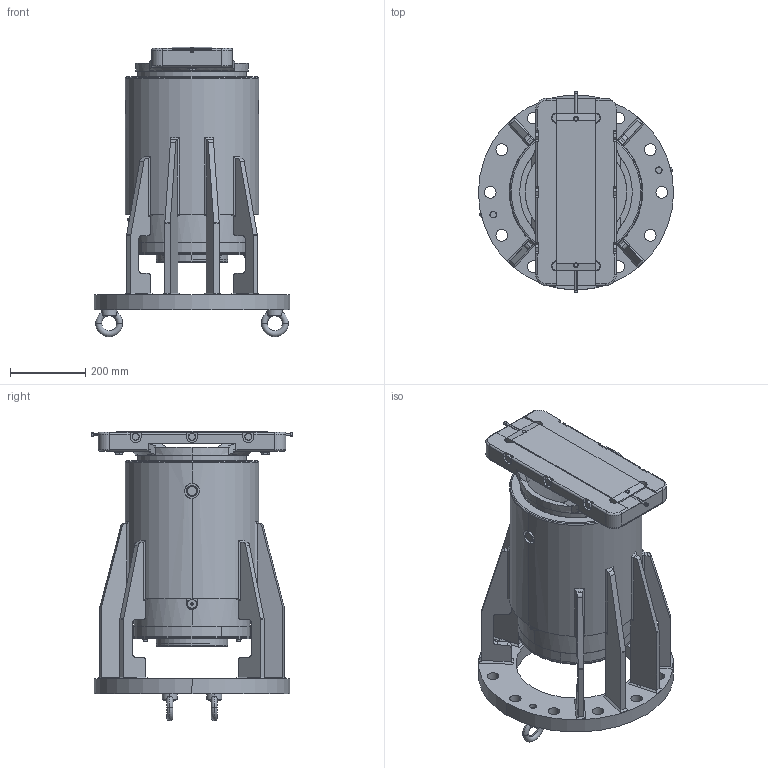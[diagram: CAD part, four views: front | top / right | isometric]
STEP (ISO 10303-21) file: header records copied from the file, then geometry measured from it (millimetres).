
FILE_DESCRIPTION((''),'2;1');
FILE_NAME('HR_185_FHM-530_ASM','2021-12-09T',('BOLS'),(''),'CREO PARAMETRIC BY PTC INC, 2018360','CREO PARAMETRIC BY PTC INC, 2018360','');
FILE_SCHEMA(('CONFIG_CONTROL_DESIGN'));
Length unit declared in the file: millimetre
Products named in the file (70): 11271-017_-_VIS_DE_PURGE-1-SO_1; 12746-030_VIS_GARNITURE_AP2-628; 12746-005_CYLINDRE-1-SOLID1_1_1; VIS_CHC__M6-7-SOLID1_1_1; VIS_CHC__M6-5-SOLID1_1_1; RONDELLES_NORM_TYPE_Z-11-SOLID1; RONDELLES_NORM_TYPE_Z-8-SOLID1_; 12746-030_VIS_GARNITURE_AP-3879; 12746-030_VIS_GARNITURE_AP-4282; VIS_H_M12-2-SOLID1_1_1; 12746-008_COUVERCLE-2-SOLID1_1_; RONDELLES_NORM_TYPE_Z-7-SOLID1_; 12746-015_REPRISE_VIS_ANTI-5722; VIS_CHC__M6-6-SOLID1_1_1; 12746-001_CORPS_AP230K-1-S-6723; 12746-001_CORPS_AP230K-1-S-7753; JOINT_RACLEUR_WD1702900-N9_46-_; VIS_CHC__M8-4-SOLID1_1_1; 12746-001_CORPS_AP230K-1-SOLID9; 12746-001_CORPS_AP230K-1-S-9748; 12746-001_CORPS_AP230K-1-SOLID5; VIS_CHC__M6-2-SOLID1_1_1; 12746-015_REPRISE_VIS_ANT-11227; RONDELLES_NORM_TYPE_Z-9-SOLID1_; RONDELLES_NORM_TYPE_Z-3-SOLID1_; VIS_CHC__M8-5-SOLID1_1_1; 12746-001_CORPS_AP230K-1--12459; 12746-001_CORPS_AP230K-1--12641; 12746-002_PORTE-GARNITURE-13481; 12746-001_CORPS_AP230K-1--13901; RONDELLES_NORM_TYPE_Z-2-SOLID1_; 12746-001_CORPS_AP230K-1-SOLID7; ANNEAU_DE_LEVAGE_MALE_M20-14900; 12746-025_GARNITURE_AP230K-1-SO; 12746-001_CORPS_AP230K-1--16518; VIS_CHC__M6-8-SOLID1_1_1; 12746-001_CORPS_AP230K-1--17304; 12746-002_PORTE-GARNITURE-19148; 12746-001_CORPS_AP230K-1--19372; VIS_CHC__M8-6-SOLID1_1_1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
Assembly tree (69 placements, depth 2):
  HR_185_FHM-530_ASM
    11271-017_-_VIS_DE_PURGE-1-SO_1
    12746-030_VIS_GARNITURE_AP2-628
    12746-005_CYLINDRE-1-SOLID1_1_1
    VIS_CHC__M6-7-SOLID1_1_1
    VIS_CHC__M6-5-SOLID1_1_1
    RONDELLES_NORM_TYPE_Z-11-SOLID1
    RONDELLES_NORM_TYPE_Z-8-SOLID1_
    12746-030_VIS_GARNITURE_AP-3879
    12746-030_VIS_GARNITURE_AP-4282
    VIS_H_M12-2-SOLID1_1_1
    12746-008_COUVERCLE-2-SOLID1_1_
    RONDELLES_NORM_TYPE_Z-7-SOLID1_
    12746-015_REPRISE_VIS_ANTI-5722
    VIS_CHC__M6-6-SOLID1_1_1
    12746-001_CORPS_AP230K-1-S-6723
    12746-001_CORPS_AP230K-1-S-7753
    JOINT_RACLEUR_WD1702900-N9_46-_
    VIS_CHC__M8-4-SOLID1_1_1
    12746-001_CORPS_AP230K-1-SOLID9
    12746-001_CORPS_AP230K-1-S-9748
    12746-001_CORPS_AP230K-1-SOLID5
    VIS_CHC__M6-2-SOLID1_1_1
    12746-015_REPRISE_VIS_ANT-11227
    RONDELLES_NORM_TYPE_Z-9-SOLID1_
    RONDELLES_NORM_TYPE_Z-3-SOLID1_
    VIS_CHC__M8-5-SOLID1_1_1
    12746-001_CORPS_AP230K-1--12459
    12746-001_CORPS_AP230K-1--12641
    12746-002_PORTE-GARNITURE-13481
    12746-001_CORPS_AP230K-1--13901
    RONDELLES_NORM_TYPE_Z-2-SOLID1_
    12746-001_CORPS_AP230K-1-SOLID7
    ANNEAU_DE_LEVAGE_MALE_M20-14900
    12746-025_GARNITURE_AP230K-1-SO
    12746-001_CORPS_AP230K-1--16518
    VIS_CHC__M6-8-SOLID1_1_1
    12746-001_CORPS_AP230K-1--17304
    12746-002_PORTE-GARNITURE-19148
    12746-001_CORPS_AP230K-1--19372
    VIS_CHC__M8-6-SOLID1_1_1
    12746-001_CORPS_AP230K-1-SOLID3
    12746-001_CORPS_AP230K-1--21581
    12746-001_CORPS_AP230K-1--22806
    12746-030_VIS_GARNITURE_A-23415
    VIS_H_M12-1-SOLID1_1_1
    RONDELLES_NORM_TYPE_Z-4-SOLID1_
    12746-001_CORPS_AP230K-1-SOLID6
    RONDELLES_NORM_TYPE_Z-5-SOLID1_
    12746-001_CORPS_AP230K-1--25258
    VIS_CHC__M8-2-SOLID1_1_1
    12746-001_CORPS_AP230K-1--25683
    VIS_CHC__M6-4-SOLID1_1_1
    12746-030_VIS_GARNITURE_A-26295
    12746-001_CORPS_AP230K-1--26481
    12662-019_ADAPTATEUR_PURGE-1-SO
    ANNEAU_DE_LEVAGE_MALE_M20-27736
    12746-002_PORTE-GARNITURE-27933
    RONDELLES_NORM_TYPE_Z-10-SOLID1
    12746-030_VIS_GARNITURE_A-29196
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Bounding box: 520 x 535 x 771.5 mm (x, y, z)
Volume: 23227103.4 mm3; surface area: 2872089.3 mm2
Topology: 69 solids, 69 shells, 1376 faces, 3304 edges, 2074 vertices
Faces by surface type: plane 626, cylinder 413, cone 194, torus 139, bspline 4
Entity records: 54207 total; most frequent: CARTESIAN_POINT 9442, DIRECTION 7341, ORIENTED_EDGE 6572, PRESENTATION_STYLE_ASSIGNMENT 3355, STYLED_ITEM 3355, CURVE_STYLE 3286, EDGE_CURVE 3286, AXIS2_PLACEMENT_3D 2821
